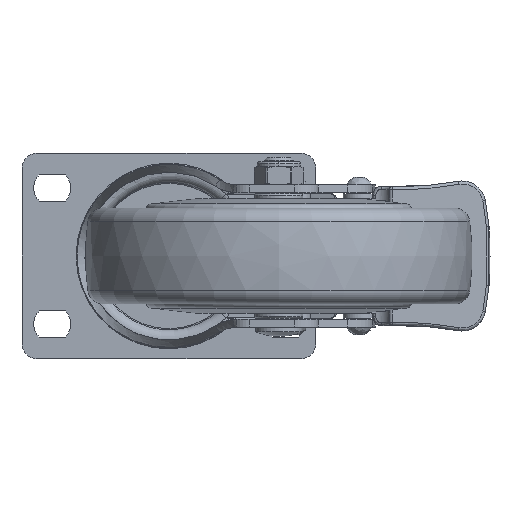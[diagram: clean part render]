
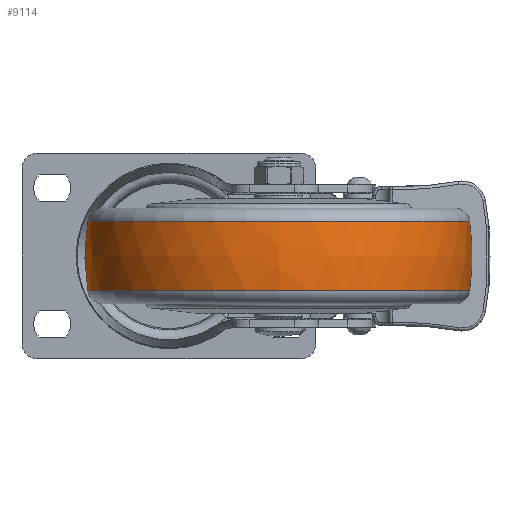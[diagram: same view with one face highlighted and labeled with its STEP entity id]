
A CAD part, front view. The second image highlights one B-rep face of the part: STEP entity #9114.
In plain terms, the highlighted free-form (B-spline) face has degree [3, 3] with [7, 4] control points.
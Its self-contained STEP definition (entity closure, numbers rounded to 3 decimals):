
#8565=CARTESIAN_POINT('',(11.2,0.,0.));
#8566=DIRECTION('',(-1.,0.,0.));
#8567=DIRECTION('',(0.,1.,0.));
#8568=AXIS2_PLACEMENT_3D('',#8565,#8566,#8567);
#8570=CARTESIAN_POINT('',(0.,-17.482,0.));
#8571=DIRECTION('',(0.,0.,1.));
#8572=DIRECTION('',(0.14,0.99,0.));
#8573=AXIS2_PLACEMENT_3D('',#8570,#8571,#8572);
#8580=CARTESIAN_POINT('',(0.,17.482,0.));
#8581=DIRECTION('',(0.,0.,-1.));
#8582=DIRECTION('',(0.14,-0.99,0.));
#8583=AXIS2_PLACEMENT_3D('',#8580,#8581,#8582);
#8792=CARTESIAN_POINT('',(-11.2,0.,0.));
#8793=DIRECTION('',(-1.,0.,0.));
#8794=DIRECTION('',(0.,1.,0.));
#8795=AXIS2_PLACEMENT_3D('',#8792,#8793,#8794);
#8979=CARTESIAN_POINT('',(11.2,61.73,0.));
#8980=CARTESIAN_POINT('',(-11.2,61.73,0.));
#8981=VERTEX_POINT('',#8979);
#8982=VERTEX_POINT('',#8980);
#9027=CARTESIAN_POINT('',(11.2,-61.73,
0.));
#9028=CARTESIAN_POINT('',(-11.2,-61.73,
0.));
#9029=VERTEX_POINT('',#9027);
#9030=VERTEX_POINT('',#9028);
#9075=CARTESIAN_POINT('',(11.645,61.544,3.872));
#9076=CARTESIAN_POINT('',(3.909,62.68,3.943));
#9077=CARTESIAN_POINT('',(-3.909,62.68,3.943));
#9078=CARTESIAN_POINT('',(-11.645,61.544,3.872));
#9079=CARTESIAN_POINT('',(11.645,63.927,-34.002));
#9080=CARTESIAN_POINT('',(3.909,65.107,-34.63));
#9081=CARTESIAN_POINT('',(-3.909,65.107,
-34.63));
#9082=CARTESIAN_POINT('',(-11.645,63.927,
-34.002));
#9083=CARTESIAN_POINT('',(11.645,37.949,-61.666));
#9084=CARTESIAN_POINT('',(3.909,38.649,-62.804));
#9085=CARTESIAN_POINT('',(-3.909,38.649,
-62.804));
#9086=CARTESIAN_POINT('',(-11.645,37.949,
-61.666));
#9087=CARTESIAN_POINT('',(11.645,0.,-61.666));
#9088=CARTESIAN_POINT('',(3.909,0.,-62.804));
#9089=CARTESIAN_POINT('',(-3.909,0.,-62.804));
#9090=CARTESIAN_POINT('',(-11.645,0.,
-61.666));
#9091=CARTESIAN_POINT('',(11.645,-37.949,
-61.666));
#9092=CARTESIAN_POINT('',(3.909,-38.649,
-62.804));
#9093=CARTESIAN_POINT('',(-3.909,-38.649,
-62.804));
#9094=CARTESIAN_POINT('',(-11.645,-37.949,
-61.666));
#9095=CARTESIAN_POINT('',(11.645,-63.927,
-34.002));
#9096=CARTESIAN_POINT('',(3.909,-65.107,
-34.63));
#9097=CARTESIAN_POINT('',(-3.909,-65.107,
-34.63));
#9098=CARTESIAN_POINT('',(-11.645,-63.927,
-34.002));
#9099=CARTESIAN_POINT('',(11.645,-61.544,3.872));
#9100=CARTESIAN_POINT('',(3.909,-62.68,3.943));
#9101=CARTESIAN_POINT('',(-3.909,-62.68,
3.943));
#9102=CARTESIAN_POINT('',(-11.645,-61.544,
3.872));
#9103=(BOUNDED_SURFACE()B_SPLINE_SURFACE(3,3,((#9075,#9076,#9077,#9078),(#9079,
#9080,#9081,#9082),(#9083,#9084,#9085,#9086),(#9087,#9088,#9089,#9090),(#9091,
#9092,#9093,#9094),(#9095,#9096,#9097,#9098),(#9099,#9100,#9101,#9102)),
.UNSPECIFIED.,.F.,.F.,.F.)B_SPLINE_SURFACE_WITH_KNOTS((4,3,4),(4,4),(0.,1.,
2.),(0.,1.),.UNSPECIFIED.)GEOMETRIC_REPRESENTATION_ITEM()RATIONAL_B_SPLINE_SURFACE(((1.194,1.185,1.185,1.194),(
0.943,0.936,0.936,0.943),(
0.943,0.936,0.936,0.943),(
1.194,1.185,1.185,1.194),(
0.943,0.936,0.936,0.943),(
0.943,0.936,0.936,0.943),(
1.194,1.185,1.185,1.194)))REPRESENTATION_ITEM('')SURFACE());
#9105=ORIENTED_EDGE('',*,*,#9104,.T.);
#9107=ORIENTED_EDGE('',*,*,#9106,.T.);
#9109=ORIENTED_EDGE('',*,*,#9108,.F.);
#9111=ORIENTED_EDGE('',*,*,#9110,.F.);
#9112=EDGE_LOOP('',(#9105,#9107,#9109,#9111));
#9113=FACE_OUTER_BOUND('',#9112,.F.);
#8569=CIRCLE('',#8568,61.73);
#8574=CIRCLE('',#8573,80.);
#8584=CIRCLE('',#8583,80.);
#8796=CIRCLE('',#8795,61.73);
#9104=EDGE_CURVE('',#8981,#8982,#8574,.T.);
#9106=EDGE_CURVE('',#8982,#9030,#8796,.T.);
#9108=EDGE_CURVE('',#9029,#9030,#8584,.T.);
#9110=EDGE_CURVE('',#8981,#9029,#8569,.T.);
#9114=ADVANCED_FACE('',(#9113),#9103,.T.);
